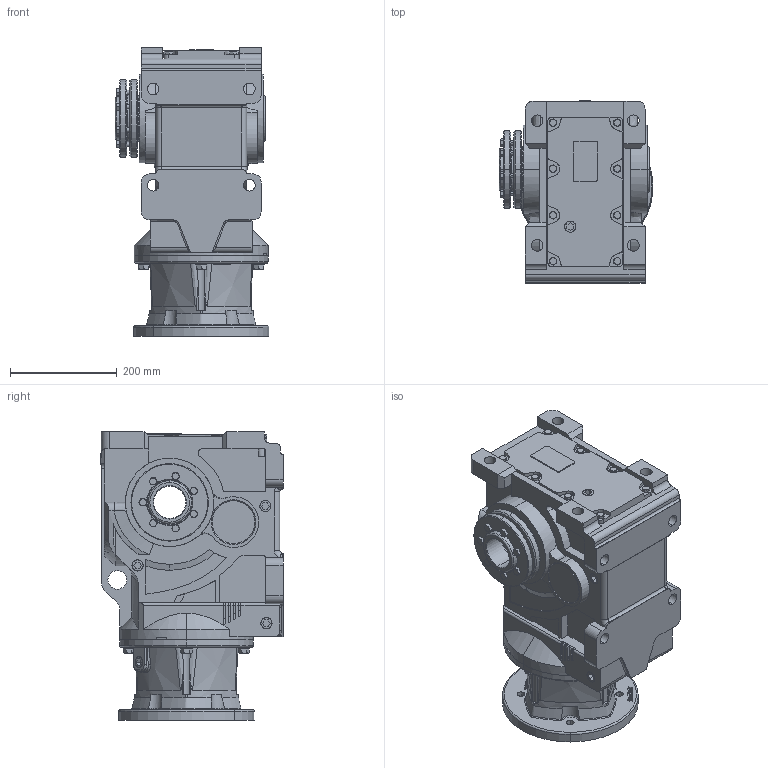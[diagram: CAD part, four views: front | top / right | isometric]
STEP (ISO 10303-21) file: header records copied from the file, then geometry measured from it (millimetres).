
FILE_DESCRIPTION (( 'STEP AP203' ), '1' );
FILE_NAME ('KHN87-254TC-B-POWER LOCK.STEP', '2020-11-25T03:05:07', ( 'Microsoft' ), ( 'Microsoft' ), 'SwSTEP 2.0', 'SolidWorks 2012', '' );
FILE_SCHEMA (( 'CONFIG_CONTROL_DESIGN' ));
Length unit declared in the file: millimetre
Products named in the file (1): KHN87-254TC-B-POWER LOCK
Bounding box: 287.52 x 340.5 x 539.5 mm (x, y, z)
Volume: 25650316.2 mm3; surface area: 1118589 mm2
Topology: 2 solids, 18 shells, 1553 faces, 3974 edges, 2543 vertices
Faces by surface type: plane 695, cylinder 385, cone 274, bspline 142, torus 57
Entity records: 58580 total; most frequent: CARTESIAN_POINT 21596, ORIENTED_EDGE 7888, DIRECTION 7333, EDGE_CURVE 3944, AXIS2_PLACEMENT_3D 2643, VERTEX_POINT 2543, VECTOR 2047, LINE 2047
